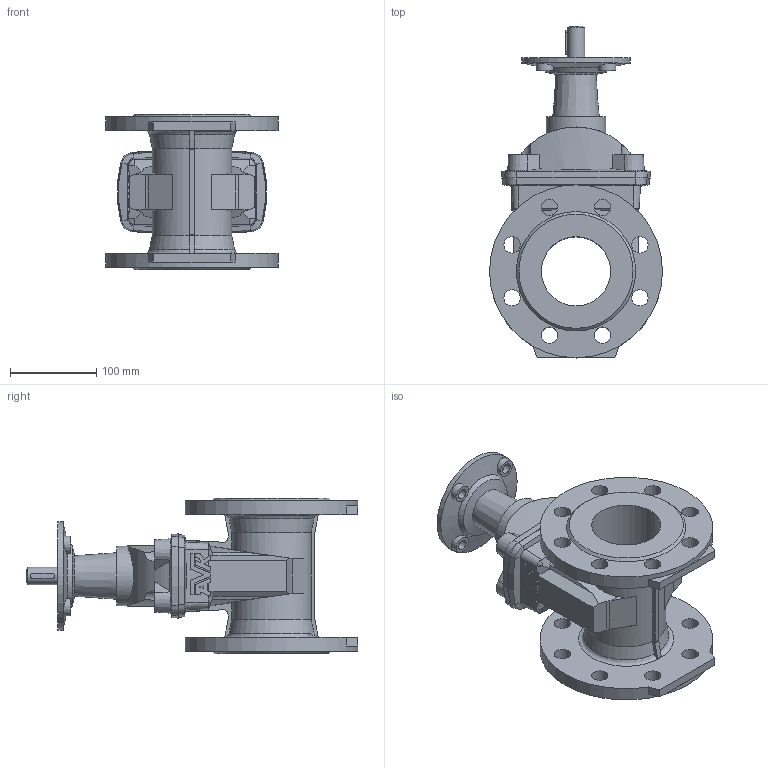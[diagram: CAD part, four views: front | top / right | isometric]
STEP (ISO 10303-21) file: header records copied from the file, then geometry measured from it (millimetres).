
FILE_DESCRIPTION (( 'STEP AP203' ), '1' );
FILE_NAME ('O_15_42_DN080_X1XXX099_AA0.step', '2017-03-10T08:09:34', ( 'Windows User' ), ( 'AVK' ), 'SwSTEP 2.0', 'SolidWorks 2012', '' );
FILE_SCHEMA (( 'CONFIG_CONTROL_DESIGN' ));
Length unit declared in the file: inch
Products named in the file (1): O_15_42_DN080_X1XXX099_AA0
Bounding box: 200 x 383.85 x 180 mm (x, y, z)
Volume: 2814137.6 mm3; surface area: 330203.3 mm2
Topology: 1 solids, 1 shells, 285 faces, 799 edges, 526 vertices
Faces by surface type: plane 136, cylinder 90, cone 57, torus 2
Full cylindrical faces by diameter (mm): 12 x4, 19 x16, 20 x5, 69 x1, 80 x1, 125 x1, 200 x2
Entity records: 9966 total; most frequent: CARTESIAN_POINT 2960, ORIENTED_EDGE 1462, DIRECTION 1350, EDGE_CURVE 731, VERTEX_POINT 501, AXIS2_PLACEMENT_3D 475, LINE 400, VECTOR 400
